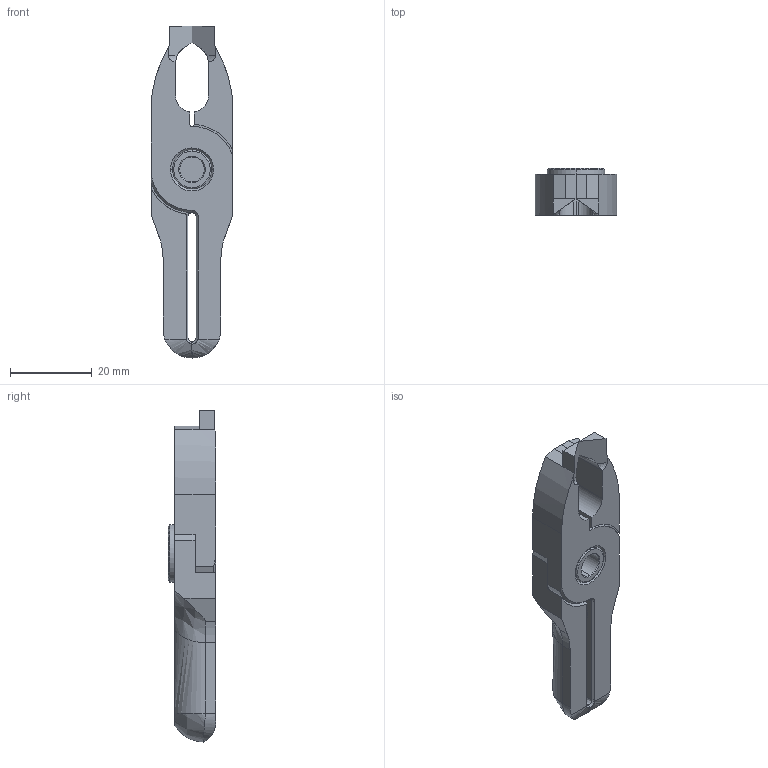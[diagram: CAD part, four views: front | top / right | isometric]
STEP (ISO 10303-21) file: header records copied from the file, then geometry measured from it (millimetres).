
FILE_DESCRIPTION (( 'STEP AP214' ), '1' );
FILE_NAME ('NY25AD.STEP', '2019-11-28T03:53:32', ( '微软用户' ), ( '微软中国' ), 'SwSTEP 2.0', 'SolidWorks 2016', '' );
FILE_SCHEMA (( 'AUTOMOTIVE_DESIGN' ));
Length unit declared in the file: millimetre
Products named in the file (4): BR2; BR1; BS; NY25AD
Assembly tree (3 placements, depth 2):
  NY25AD
    BS
    BR1
    BR2
Bounding box: 20 x 11.5 x 81 mm (x, y, z)
Volume: 9836.2 mm3; surface area: 7010.8 mm2
Topology: 3 solids, 3 shells, 132 faces, 340 edges, 215 vertices
Faces by surface type: plane 45, bspline 31, cylinder 28, cone 24, torus 4
Entity records: 4777 total; most frequent: CARTESIAN_POINT 1651, ORIENTED_EDGE 672, DIRECTION 566, EDGE_CURVE 336, VERTEX_POINT 215, AXIS2_PLACEMENT_3D 202, LINE 162, VECTOR 162
